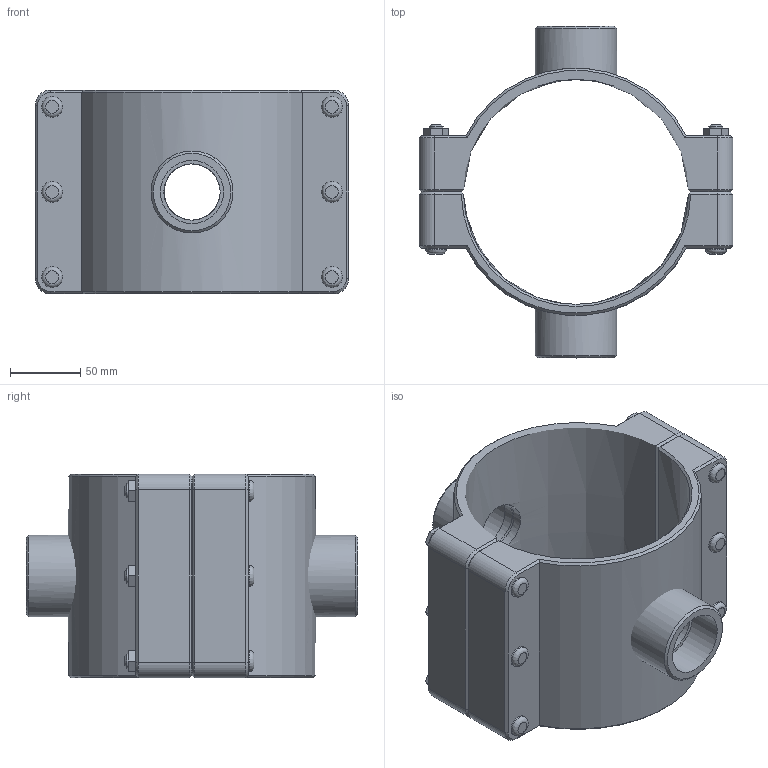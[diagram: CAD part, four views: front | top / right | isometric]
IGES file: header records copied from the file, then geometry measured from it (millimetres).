
Global section: file name: 161760160015_161860160015.ipt; native system: Autodesk Inventor 2015; preprocessor: unknown; author: KIM; date: 20170618.093821; units: millimetre
Bounding box: 223 x 236 x 145 mm (x, y, z)
Volume: 1284729.4 mm3; surface area: 225520.6 mm2
Topology: 3 solids, 3 shells, 179 faces, 416 edges, 265 vertices
Faces by surface type: plane 102, cylinder 30, cone 28, revolution 19
Full cylindrical faces by diameter (mm): 10 x6, 15 x12, 58.298 x2
